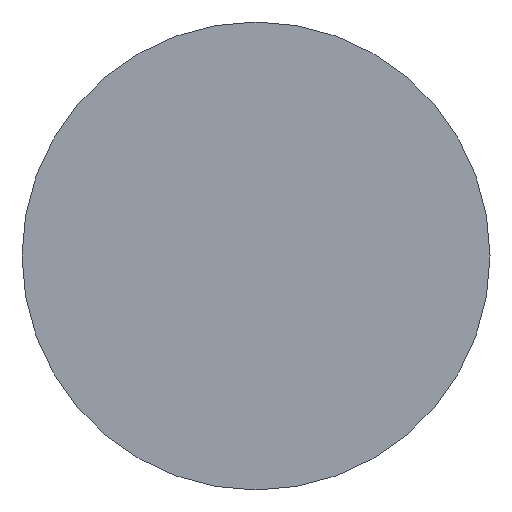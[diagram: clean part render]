
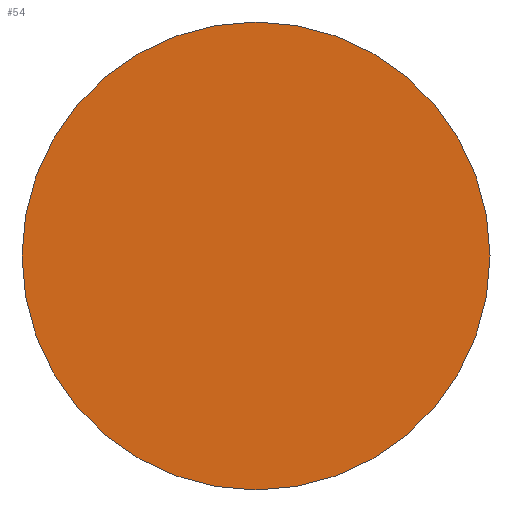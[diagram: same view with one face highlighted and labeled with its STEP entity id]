
A CAD part, top view. The second image highlights one B-rep face of the part: STEP entity #54.
In plain terms, the highlighted planar face has unit normal (0, 0, 1).
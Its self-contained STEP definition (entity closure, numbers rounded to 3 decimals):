
#54=ADVANCED_FACE('',(#113),#114,.F.);
#113=FACE_OUTER_BOUND('',#167,.T.);
#114=PLANE('',#168);
#167=EDGE_LOOP('',(#242));
#168=AXIS2_PLACEMENT_3D('',#243,#244,#245);
#242=ORIENTED_EDGE('',*,*,#275,.F.);
#243=CARTESIAN_POINT('',(0.0,0.0,0.0));
#244=DIRECTION('',(-0.0,0.,-1.0));
#245=DIRECTION('',(0.0,1.0,0.));
#275=EDGE_CURVE('',#307,#307,#308,.T.);
#307=VERTEX_POINT('',#341);
#308=CIRCLE('',#342,21.);
#341=CARTESIAN_POINT('',(0.0,21.,0.));
#342=AXIS2_PLACEMENT_3D('',#375,#376,#377);
#375=CARTESIAN_POINT('',(0.0,0.0,0.0));
#376=DIRECTION('',(-0.0,0.,-1.0));
#377=DIRECTION('',(0.0,1.0,0.));
